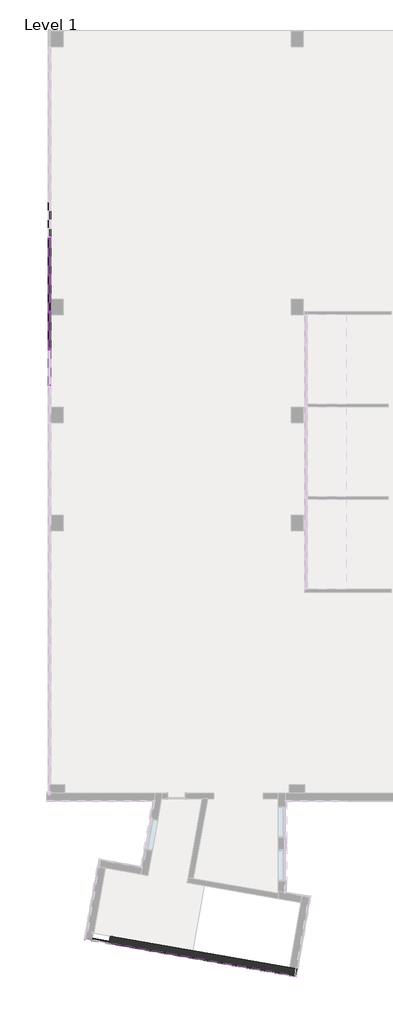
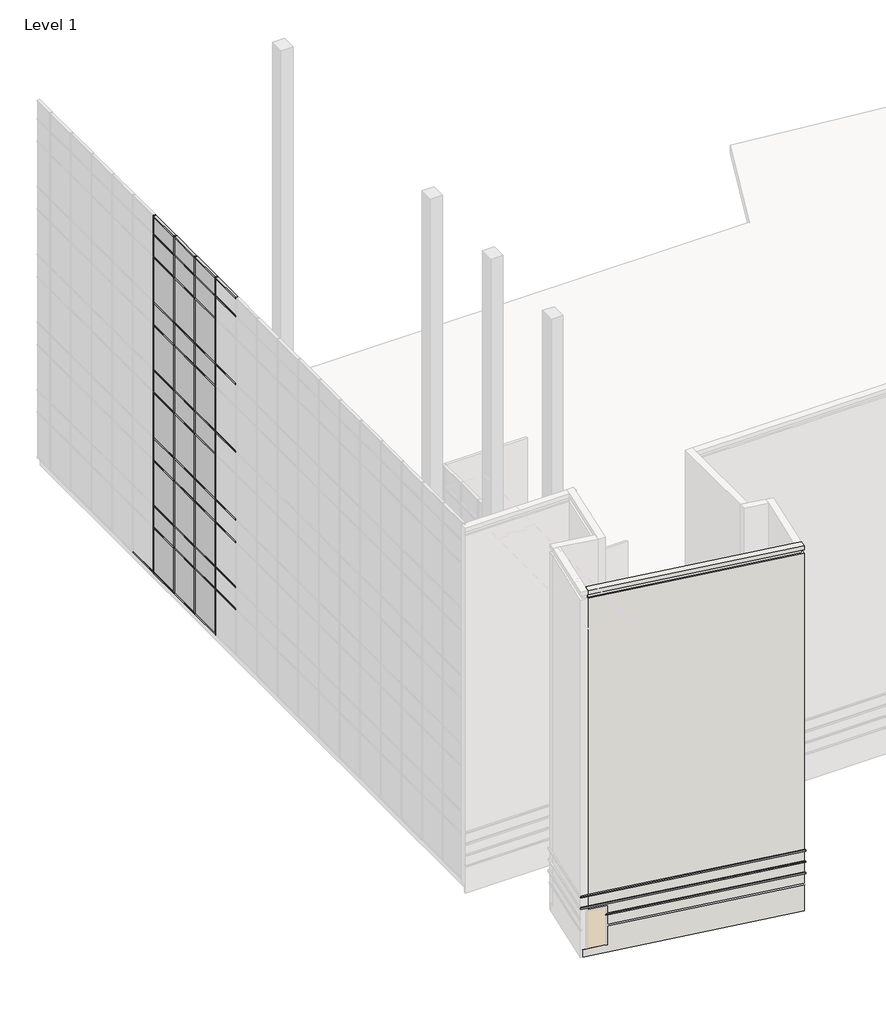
# One storey, part 4 of 23: 69 members, 33 plates, 3 proxies, 1 wall.
"""IFC4 building model written with IfcOpenShell, lengths in millimetres."""

from ifc_helpers import new_model, si_unit, frame, origin, place, context, project, spatial, polyline, outline, extrude, faceted_brep, transform, mapped, element, save
from components import member_f92b8aa2, member_810865a4, member_6d5c3e5e, member_9764dd38, system_panel_glazed_14c75400, system_panel_solid_5dfe6f83, system_panel_solid_e25e2004, system_panel_solid_b7551183

model = new_model("IFC4")

# Units and contexts
model_context = context("Model", 3, world=origin())
ifc_project = project(units=[si_unit("LENGTHUNIT", "METRE", prefix="MILLI")], contexts=[model_context])

# Site, building, storey
site = spatial("IfcSite", under=ifc_project)
building = spatial("IfcBuilding", under=site)
storey = spatial("IfcBuildingStorey", under=building, Name="Level 1", Elevation=0.0)

# Proxies
placement = place(None, origin())
element("IfcBuildingElementProxy", 1, Name="Reveals", at=placement, inside=storey, context=model_context, shape_type="SweptSolid", body=[
    extrude(outline(polyline([(-65796.5031372, -35188.4340603), (-65780.5144812, -35097.7578865), (-56600.3335692, -36716.4714691), (-56525.6460513, -36823.1362989), (-65796.5031372, -35188.4340603)])), frame((0.0, 0.0, 1625.6), z_axis=(0.0, 0.0, 1.0), x_axis=(1.0, 0.0, 0.0)), (0.0, 0.0, 1.0), 67.7333333),
])
element("IfcBuildingElementProxy", 2, Name="Reveals", at=placement, inside=storey, context=model_context, shape_type="SweptSolid", body=[
    extrude(outline(polyline([(-67022.1948666, -34972.3115384), (-66915.5300368, -34897.6240205), (-56600.3335692, -36716.4714691), (-56525.6460513, -36823.1362989), (-67022.1948666, -34972.3115384)])), frame((0.0, 0.0, 2235.2), z_axis=(0.0, 0.0, 1.0), x_axis=(1.0, 0.0, 0.0)), (0.0, 0.0, 1.0), 67.7333333),
])
element("IfcBuildingElementProxy", 3, Name="Reveals", at=placement, inside=storey, context=model_context, shape_type="SweptSolid", body=[
    extrude(outline(polyline([(-67022.1948666, -34972.3115384), (-66915.5300368, -34897.6240205), (-56600.3335692, -36716.4714691), (-56525.6460513, -36823.1362989), (-67022.1948666, -34972.3115384)])), frame((0.0, 0.0, 2844.8), z_axis=(0.0, 0.0, 1.0), x_axis=(1.0, 0.0, 0.0)), (0.0, 0.0, 1.0), 67.7333333),
])

# Members
member_shape = member_f92b8aa2(model_context)
element("IfcMember", 4, ObjectType="Rectangular Mullion : 2.5\" x 5\" rectangular", at=placement, inside=storey, context=model_context, shape_type="MappedRepresentation", body=[
    mapped(member_shape, transform((-68724.2599961, -5784.1853492, 18288.0), x_axis=(0.0, 1.0, 0.0), y_axis=(1.0, 0.0, 0.0), z_axis=(0.0, 0.0, -1.0))),
])
element("IfcMember", 5, ObjectType="Rectangular Mullion : 2.5\" x 5\" rectangular", at=placement, inside=storey, context=model_context, shape_type="MappedRepresentation", body=[
    mapped(member_shape, transform((-68724.2599961, -3955.3853492, 18288.0), x_axis=(0.0, 1.0, 0.0), y_axis=(1.0, 0.0, 0.0), z_axis=(0.0, 0.0, -1.0))),
])
element("IfcMember", 6, ObjectType="Rectangular Mullion : 2.5\" x 5\" rectangular", at=placement, inside=storey, context=model_context, shape_type="MappedRepresentation", body=[
    mapped(member_shape, transform((-68724.2599961, -2126.5853492, 18288.0), x_axis=(0.0, 1.0, 0.0), y_axis=(1.0, 0.0, 0.0), z_axis=(0.0, 0.0, -1.0))),
])
element("IfcMember", 7, ObjectType="Rectangular Mullion : 2.5\" x 5\" rectangular", at=placement, inside=storey, context=model_context, shape_type="MappedRepresentation", body=[
    mapped(member_shape, transform((-68724.2599961, -297.7853492, 18288.0), x_axis=(0.0, 1.0, 0.0), y_axis=(1.0, 0.0, 0.0), z_axis=(0.0, 0.0, -1.0))),
])
member_2_shape = member_810865a4(model_context)
element("IfcMember", 8, ObjectType="Rectangular Mullion : 2.5\" x 5\" rectangular", at=placement, inside=storey, context=model_context, shape_type="MappedRepresentation", body=[
    mapped(member_2_shape, transform((-68724.2599961, -5784.1853492, 3657.6), x_axis=(0.0, 1.0, 0.0), y_axis=(1.0, 0.0, 0.0), z_axis=(0.0, 0.0, -1.0))),
])
element("IfcMember", 9, ObjectType="Rectangular Mullion : 2.5\" x 5\" rectangular", at=placement, inside=storey, context=model_context, shape_type="MappedRepresentation", body=[
    mapped(member_2_shape, transform((-68724.2599961, -3955.3853492, 3657.6), x_axis=(0.0, 1.0, 0.0), y_axis=(1.0, 0.0, 0.0), z_axis=(0.0, 0.0, -1.0))),
])
element("IfcMember", 10, ObjectType="Rectangular Mullion : 2.5\" x 5\" rectangular", at=placement, inside=storey, context=model_context, shape_type="MappedRepresentation", body=[
    mapped(member_2_shape, transform((-68724.2599961, -2126.5853492, 3657.6), x_axis=(0.0, 1.0, 0.0), y_axis=(1.0, 0.0, 0.0), z_axis=(0.0, 0.0, -1.0))),
])
element("IfcMember", 11, ObjectType="Rectangular Mullion : 2.5\" x 5\" rectangular", at=placement, inside=storey, context=model_context, shape_type="MappedRepresentation", body=[
    mapped(member_2_shape, transform((-68724.2599961, -297.7853492, 3657.6), x_axis=(0.0, 1.0, 0.0), y_axis=(1.0, 0.0, 0.0), z_axis=(0.0, 0.0, -1.0))),
])
element("IfcMember", 12, ObjectType="Rectangular Mullion : 2.5\" x 5\" rectangular", at=placement, inside=storey, context=model_context, shape_type="MappedRepresentation", body=[
    mapped(member_2_shape, transform((-68724.2599961, -5784.1853492, 7315.2), x_axis=(0.0, 1.0, 0.0), y_axis=(1.0, 0.0, 0.0), z_axis=(0.0, 0.0, -1.0))),
])
element("IfcMember", 13, ObjectType="Rectangular Mullion : 2.5\" x 5\" rectangular", at=placement, inside=storey, context=model_context, shape_type="MappedRepresentation", body=[
    mapped(member_2_shape, transform((-68724.2599961, -3955.3853492, 7315.2), x_axis=(0.0, 1.0, 0.0), y_axis=(1.0, 0.0, 0.0), z_axis=(0.0, 0.0, -1.0))),
])
element("IfcMember", 14, ObjectType="Rectangular Mullion : 2.5\" x 5\" rectangular", at=placement, inside=storey, context=model_context, shape_type="MappedRepresentation", body=[
    mapped(member_2_shape, transform((-68724.2599961, -2126.5853492, 7315.2), x_axis=(0.0, 1.0, 0.0), y_axis=(1.0, 0.0, 0.0), z_axis=(0.0, 0.0, -1.0))),
])
element("IfcMember", 15, ObjectType="Rectangular Mullion : 2.5\" x 5\" rectangular", at=placement, inside=storey, context=model_context, shape_type="MappedRepresentation", body=[
    mapped(member_2_shape, transform((-68724.2599961, -297.7853492, 7315.2), x_axis=(0.0, 1.0, 0.0), y_axis=(1.0, 0.0, 0.0), z_axis=(0.0, 0.0, -1.0))),
])
element("IfcMember", 16, ObjectType="Rectangular Mullion : 2.5\" x 5\" rectangular", at=placement, inside=storey, context=model_context, shape_type="MappedRepresentation", body=[
    mapped(member_2_shape, transform((-68724.2599961, -5784.1853492, 10972.8), x_axis=(0.0, 1.0, 0.0), y_axis=(1.0, 0.0, 0.0), z_axis=(0.0, 0.0, -1.0))),
])
element("IfcMember", 17, ObjectType="Rectangular Mullion : 2.5\" x 5\" rectangular", at=placement, inside=storey, context=model_context, shape_type="MappedRepresentation", body=[
    mapped(member_2_shape, transform((-68724.2599961, -3955.3853492, 10972.8), x_axis=(0.0, 1.0, 0.0), y_axis=(1.0, 0.0, 0.0), z_axis=(0.0, 0.0, -1.0))),
])
element("IfcMember", 18, ObjectType="Rectangular Mullion : 2.5\" x 5\" rectangular", at=placement, inside=storey, context=model_context, shape_type="MappedRepresentation", body=[
    mapped(member_2_shape, transform((-68724.2599961, -2126.5853492, 10972.8), x_axis=(0.0, 1.0, 0.0), y_axis=(1.0, 0.0, 0.0), z_axis=(0.0, 0.0, -1.0))),
])
element("IfcMember", 19, ObjectType="Rectangular Mullion : 2.5\" x 5\" rectangular", at=placement, inside=storey, context=model_context, shape_type="MappedRepresentation", body=[
    mapped(member_2_shape, transform((-68724.2599961, -297.7853492, 10972.8), x_axis=(0.0, 1.0, 0.0), y_axis=(1.0, 0.0, 0.0), z_axis=(0.0, 0.0, -1.0))),
])
element("IfcMember", 20, ObjectType="Rectangular Mullion : 2.5\" x 5\" rectangular", at=placement, inside=storey, context=model_context, shape_type="MappedRepresentation", body=[
    mapped(member_2_shape, transform((-68724.2599961, -5784.1853492, 14630.4), x_axis=(0.0, 1.0, 0.0), y_axis=(1.0, 0.0, 0.0), z_axis=(0.0, 0.0, -1.0))),
])
element("IfcMember", 21, ObjectType="Rectangular Mullion : 2.5\" x 5\" rectangular", at=placement, inside=storey, context=model_context, shape_type="MappedRepresentation", body=[
    mapped(member_2_shape, transform((-68724.2599961, -3955.3853492, 14630.4), x_axis=(0.0, 1.0, 0.0), y_axis=(1.0, 0.0, 0.0), z_axis=(0.0, 0.0, -1.0))),
])
element("IfcMember", 22, ObjectType="Rectangular Mullion : 2.5\" x 5\" rectangular", at=placement, inside=storey, context=model_context, shape_type="MappedRepresentation", body=[
    mapped(member_2_shape, transform((-68724.2599961, -2126.5853492, 14630.4), x_axis=(0.0, 1.0, 0.0), y_axis=(1.0, 0.0, 0.0), z_axis=(0.0, 0.0, -1.0))),
])
element("IfcMember", 23, ObjectType="Rectangular Mullion : 2.5\" x 5\" rectangular", at=placement, inside=storey, context=model_context, shape_type="MappedRepresentation", body=[
    mapped(member_2_shape, transform((-68724.2599961, -297.7853492, 14630.4), x_axis=(0.0, 1.0, 0.0), y_axis=(1.0, 0.0, 0.0), z_axis=(0.0, 0.0, -1.0))),
])
member_3_shape = member_6d5c3e5e(model_context)
element("IfcMember", 24, ObjectType="Rectangular Mullion : 2.5\" x 5\" rectangular", at=placement, inside=storey, context=model_context, shape_type="MappedRepresentation", body=[
    mapped(member_3_shape, transform((-68724.2599961, -5815.9353492, 19304.0), x_axis=(0.0, 0.0, 1.0), y_axis=(1.0, 0.0, 0.0), z_axis=(0.0, 1.0, 0.0))),
])
element("IfcMember", 25, ObjectType="Rectangular Mullion : 2.5\" x 5\" rectangular", at=placement, inside=storey, context=model_context, shape_type="MappedRepresentation", body=[
    mapped(member_3_shape, transform((-68724.2599961, -3987.1353492, 19304.0), x_axis=(0.0, 0.0, 1.0), y_axis=(1.0, 0.0, 0.0), z_axis=(0.0, 1.0, 0.0))),
])
element("IfcMember", 26, ObjectType="Rectangular Mullion : 2.5\" x 5\" rectangular", at=placement, inside=storey, context=model_context, shape_type="MappedRepresentation", body=[
    mapped(member_3_shape, transform((-68724.2599961, -2158.3353492, 19304.0), x_axis=(0.0, 0.0, 1.0), y_axis=(1.0, 0.0, 0.0), z_axis=(0.0, 1.0, 0.0))),
])
element("IfcMember", 27, ObjectType="Rectangular Mullion : 2.5\" x 5\" rectangular", at=placement, inside=storey, context=model_context, shape_type="MappedRepresentation", body=[
    mapped(member_3_shape, transform((-68724.2599961, -329.5353492, 19304.0), x_axis=(0.0, 0.0, 1.0), y_axis=(1.0, 0.0, 0.0), z_axis=(0.0, 1.0, 0.0))),
])
member_4_shape = member_9764dd38(model_context)
element("IfcMember", 28, ObjectType="Rectangular Mullion : 2.5\" x 5\" rectangular", at=placement, inside=storey, context=model_context, shape_type="MappedRepresentation", body=[
    mapped(member_4_shape, transform((-68724.2599961, -329.5353492, 17068.8), x_axis=(0.0, 0.0, 1.0), y_axis=(1.0, 0.0, 0.0), z_axis=(0.0, 1.0, 0.0))),
])
element("IfcMember", 29, ObjectType="Rectangular Mullion : 2.5\" x 5\" rectangular", at=placement, inside=storey, context=model_context, shape_type="MappedRepresentation", body=[
    mapped(member_4_shape, transform((-68724.2599961, -2158.3353492, 17068.8), x_axis=(0.0, 0.0, 1.0), y_axis=(1.0, 0.0, 0.0), z_axis=(0.0, 1.0, 0.0))),
])
element("IfcMember", 30, ObjectType="Rectangular Mullion : 2.5\" x 5\" rectangular", at=placement, inside=storey, context=model_context, shape_type="MappedRepresentation", body=[
    mapped(member_4_shape, transform((-68724.2599961, -3987.1353492, 17068.8), x_axis=(0.0, 0.0, 1.0), y_axis=(1.0, 0.0, 0.0), z_axis=(0.0, 1.0, 0.0))),
])
element("IfcMember", 31, ObjectType="Rectangular Mullion : 2.5\" x 5\" rectangular", at=placement, inside=storey, context=model_context, shape_type="MappedRepresentation", body=[
    mapped(member_4_shape, transform((-68724.2599961, -329.5353492, 13411.2), x_axis=(0.0, 0.0, 1.0), y_axis=(1.0, 0.0, 0.0), z_axis=(0.0, 1.0, 0.0))),
])
element("IfcMember", 32, ObjectType="Rectangular Mullion : 2.5\" x 5\" rectangular", at=placement, inside=storey, context=model_context, shape_type="MappedRepresentation", body=[
    mapped(member_4_shape, transform((-68724.2599961, -2158.3353492, 13411.2), x_axis=(0.0, 0.0, 1.0), y_axis=(1.0, 0.0, 0.0), z_axis=(0.0, 1.0, 0.0))),
])
element("IfcMember", 33, ObjectType="Rectangular Mullion : 2.5\" x 5\" rectangular", at=placement, inside=storey, context=model_context, shape_type="MappedRepresentation", body=[
    mapped(member_4_shape, transform((-68724.2599961, -3987.1353492, 13411.2), x_axis=(0.0, 0.0, 1.0), y_axis=(1.0, 0.0, 0.0), z_axis=(0.0, 1.0, 0.0))),
])
element("IfcMember", 34, ObjectType="Rectangular Mullion : 2.5\" x 5\" rectangular", at=placement, inside=storey, context=model_context, shape_type="MappedRepresentation", body=[
    mapped(member_4_shape, transform((-68724.2599961, -329.5353492, 9753.6), x_axis=(0.0, 0.0, 1.0), y_axis=(1.0, 0.0, 0.0), z_axis=(0.0, 1.0, 0.0))),
])
element("IfcMember", 35, ObjectType="Rectangular Mullion : 2.5\" x 5\" rectangular", at=placement, inside=storey, context=model_context, shape_type="MappedRepresentation", body=[
    mapped(member_4_shape, transform((-68724.2599961, -2158.3353492, 9753.6), x_axis=(0.0, 0.0, 1.0), y_axis=(1.0, 0.0, 0.0), z_axis=(0.0, 1.0, 0.0))),
])
element("IfcMember", 36, ObjectType="Rectangular Mullion : 2.5\" x 5\" rectangular", at=placement, inside=storey, context=model_context, shape_type="MappedRepresentation", body=[
    mapped(member_4_shape, transform((-68724.2599961, -3987.1353492, 9753.6), x_axis=(0.0, 0.0, 1.0), y_axis=(1.0, 0.0, 0.0), z_axis=(0.0, 1.0, 0.0))),
])
element("IfcMember", 37, ObjectType="Rectangular Mullion : 2.5\" x 5\" rectangular", at=placement, inside=storey, context=model_context, shape_type="MappedRepresentation", body=[
    mapped(member_4_shape, transform((-68724.2599961, -329.5353492, 6096.0), x_axis=(0.0, 0.0, 1.0), y_axis=(1.0, 0.0, 0.0), z_axis=(0.0, 1.0, 0.0))),
])
element("IfcMember", 38, ObjectType="Rectangular Mullion : 2.5\" x 5\" rectangular", at=placement, inside=storey, context=model_context, shape_type="MappedRepresentation", body=[
    mapped(member_4_shape, transform((-68724.2599961, -2158.3353492, 6096.0), x_axis=(0.0, 0.0, 1.0), y_axis=(1.0, 0.0, 0.0), z_axis=(0.0, 1.0, 0.0))),
])
element("IfcMember", 39, ObjectType="Rectangular Mullion : 2.5\" x 5\" rectangular", at=placement, inside=storey, context=model_context, shape_type="MappedRepresentation", body=[
    mapped(member_4_shape, transform((-68724.2599961, -3987.1353492, 6096.0), x_axis=(0.0, 0.0, 1.0), y_axis=(1.0, 0.0, 0.0), z_axis=(0.0, 1.0, 0.0))),
])
element("IfcMember", 40, ObjectType="Rectangular Mullion : 2.5\" x 5\" rectangular", at=placement, inside=storey, context=model_context, shape_type="MappedRepresentation", body=[
    mapped(member_4_shape, transform((-68724.2599961, -5815.9353492, 6096.0), x_axis=(0.0, 0.0, 1.0), y_axis=(1.0, 0.0, 0.0), z_axis=(0.0, 1.0, 0.0))),
])
element("IfcMember", 41, ObjectType="Rectangular Mullion : 2.5\" x 5\" rectangular", at=placement, inside=storey, context=model_context, shape_type="MappedRepresentation", body=[
    mapped(member_4_shape, transform((-68724.2599961, -329.5353492, 2470.15), x_axis=(0.0, 0.0, 1.0), y_axis=(1.0, 0.0, 0.0), z_axis=(0.0, 1.0, 0.0))),
])
element("IfcMember", 42, ObjectType="Rectangular Mullion : 2.5\" x 5\" rectangular", at=placement, inside=storey, context=model_context, shape_type="MappedRepresentation", body=[
    mapped(member_4_shape, transform((-68724.2599961, -2158.3353492, 2470.15), x_axis=(0.0, 0.0, 1.0), y_axis=(1.0, 0.0, 0.0), z_axis=(0.0, 1.0, 0.0))),
])
element("IfcMember", 43, ObjectType="Rectangular Mullion : 2.5\" x 5\" rectangular", at=placement, inside=storey, context=model_context, shape_type="MappedRepresentation", body=[
    mapped(member_4_shape, transform((-68724.2599961, -3987.1353492, 2470.15), x_axis=(0.0, 0.0, 1.0), y_axis=(1.0, 0.0, 0.0), z_axis=(0.0, 1.0, 0.0))),
])
element("IfcMember", 44, ObjectType="Rectangular Mullion : 2.5\" x 5\" rectangular", at=placement, inside=storey, context=model_context, shape_type="MappedRepresentation", body=[
    mapped(member_4_shape, transform((-68724.2599961, -5815.9353492, 2470.15), x_axis=(0.0, 0.0, 1.0), y_axis=(1.0, 0.0, 0.0), z_axis=(0.0, 1.0, 0.0))),
])
element("IfcMember", 45, ObjectType="Rectangular Mullion : 2.5\" x 5\" rectangular", at=placement, inside=storey, context=model_context, shape_type="MappedRepresentation", body=[
    mapped(member_2_shape, transform((-68724.2599961, -5784.1853492, 0.0), x_axis=(0.0, 1.0, 0.0), y_axis=(1.0, 0.0, 0.0), z_axis=(0.0, 0.0, -1.0))),
])
element("IfcMember", 46, ObjectType="Rectangular Mullion : 2.5\" x 5\" rectangular", at=placement, inside=storey, context=model_context, shape_type="MappedRepresentation", body=[
    mapped(member_2_shape, transform((-68724.2599961, -3955.3853492, 0.0), x_axis=(0.0, 1.0, 0.0), y_axis=(1.0, 0.0, 0.0), z_axis=(0.0, 0.0, -1.0))),
])
element("IfcMember", 47, ObjectType="Rectangular Mullion : 2.5\" x 5\" rectangular", at=placement, inside=storey, context=model_context, shape_type="MappedRepresentation", body=[
    mapped(member_2_shape, transform((-68724.2599961, -2126.5853492, 0.0), x_axis=(0.0, 1.0, 0.0), y_axis=(1.0, 0.0, 0.0), z_axis=(0.0, 0.0, -1.0))),
])
element("IfcMember", 48, ObjectType="Rectangular Mullion : 2.5\" x 5\" rectangular", at=placement, inside=storey, context=model_context, shape_type="MappedRepresentation", body=[
    mapped(member_2_shape, transform((-68724.2599961, -297.7853492, 0.0), x_axis=(0.0, 1.0, 0.0), y_axis=(1.0, 0.0, 0.0), z_axis=(0.0, 0.0, -1.0))),
])
element("IfcMember", 49, ObjectType="Rectangular Mullion : 2.5\" x 5\" rectangular", at=placement, inside=storey, context=model_context, shape_type="MappedRepresentation", body=[
    mapped(member_3_shape, transform((-68724.2599961, -5752.4353492, 0.0), x_axis=(0.0, 0.0, -1.0), y_axis=(1.0, 0.0, 0.0), z_axis=(0.0, -1.0, 0.0))),
])
element("IfcMember", 50, ObjectType="Rectangular Mullion : 2.5\" x 5\" rectangular", at=placement, inside=storey, context=model_context, shape_type="MappedRepresentation", body=[
    mapped(member_3_shape, transform((-68724.2599961, -3923.6353492, 0.0), x_axis=(0.0, 0.0, -1.0), y_axis=(1.0, 0.0, 0.0), z_axis=(0.0, -1.0, 0.0))),
])
element("IfcMember", 51, ObjectType="Rectangular Mullion : 2.5\" x 5\" rectangular", at=placement, inside=storey, context=model_context, shape_type="MappedRepresentation", body=[
    mapped(member_3_shape, transform((-68724.2599961, -2094.8353492, 0.0), x_axis=(0.0, 0.0, -1.0), y_axis=(1.0, 0.0, 0.0), z_axis=(0.0, -1.0, 0.0))),
])
element("IfcMember", 52, ObjectType="Rectangular Mullion : 2.5\" x 5\" rectangular", at=placement, inside=storey, context=model_context, shape_type="MappedRepresentation", body=[
    mapped(member_3_shape, transform((-68724.2599961, -266.0353492, 0.0), x_axis=(0.0, 0.0, -1.0), y_axis=(1.0, 0.0, 0.0), z_axis=(0.0, -1.0, 0.0))),
])
element("IfcMember", 53, ObjectType="Rectangular Mullion : 2.5\" x 5\" rectangular", at=placement, inside=storey, context=model_context, shape_type="MappedRepresentation", body=[
    mapped(member_4_shape, transform((-68724.2599961, -5815.9353492, 3657.6), x_axis=(0.0, 0.0, 1.0), y_axis=(1.0, 0.0, 0.0), z_axis=(0.0, 1.0, 0.0))),
])
element("IfcMember", 54, ObjectType="Rectangular Mullion : 2.5\" x 5\" rectangular", at=placement, inside=storey, context=model_context, shape_type="MappedRepresentation", body=[
    mapped(member_4_shape, transform((-68724.2599961, -3987.1353492, 3657.6), x_axis=(0.0, 0.0, 1.0), y_axis=(1.0, 0.0, 0.0), z_axis=(0.0, 1.0, 0.0))),
])
element("IfcMember", 55, ObjectType="Rectangular Mullion : 2.5\" x 5\" rectangular", at=placement, inside=storey, context=model_context, shape_type="MappedRepresentation", body=[
    mapped(member_4_shape, transform((-68724.2599961, -2158.3353492, 3657.6), x_axis=(0.0, 0.0, 1.0), y_axis=(1.0, 0.0, 0.0), z_axis=(0.0, 1.0, 0.0))),
])
element("IfcMember", 56, ObjectType="Rectangular Mullion : 2.5\" x 5\" rectangular", at=placement, inside=storey, context=model_context, shape_type="MappedRepresentation", body=[
    mapped(member_4_shape, transform((-68724.2599961, -329.5353492, 3657.6), x_axis=(0.0, 0.0, 1.0), y_axis=(1.0, 0.0, 0.0), z_axis=(0.0, 1.0, 0.0))),
])
element("IfcMember", 57, ObjectType="Rectangular Mullion : 2.5\" x 5\" rectangular", at=placement, inside=storey, context=model_context, shape_type="MappedRepresentation", body=[
    mapped(member_4_shape, transform((-68724.2599961, -5815.9353492, 7315.2), x_axis=(0.0, 0.0, 1.0), y_axis=(1.0, 0.0, 0.0), z_axis=(0.0, 1.0, 0.0))),
])
element("IfcMember", 58, ObjectType="Rectangular Mullion : 2.5\" x 5\" rectangular", at=placement, inside=storey, context=model_context, shape_type="MappedRepresentation", body=[
    mapped(member_4_shape, transform((-68724.2599961, -3987.1353492, 7315.2), x_axis=(0.0, 0.0, 1.0), y_axis=(1.0, 0.0, 0.0), z_axis=(0.0, 1.0, 0.0))),
])
element("IfcMember", 59, ObjectType="Rectangular Mullion : 2.5\" x 5\" rectangular", at=placement, inside=storey, context=model_context, shape_type="MappedRepresentation", body=[
    mapped(member_4_shape, transform((-68724.2599961, -2158.3353492, 7315.2), x_axis=(0.0, 0.0, 1.0), y_axis=(1.0, 0.0, 0.0), z_axis=(0.0, 1.0, 0.0))),
])
element("IfcMember", 60, ObjectType="Rectangular Mullion : 2.5\" x 5\" rectangular", at=placement, inside=storey, context=model_context, shape_type="MappedRepresentation", body=[
    mapped(member_4_shape, transform((-68724.2599961, -329.5353492, 7315.2), x_axis=(0.0, 0.0, 1.0), y_axis=(1.0, 0.0, 0.0), z_axis=(0.0, 1.0, 0.0))),
])
element("IfcMember", 61, ObjectType="Rectangular Mullion : 2.5\" x 5\" rectangular", at=placement, inside=storey, context=model_context, shape_type="MappedRepresentation", body=[
    mapped(member_4_shape, transform((-68724.2599961, -5815.9353492, 10972.8), x_axis=(0.0, 0.0, 1.0), y_axis=(1.0, 0.0, 0.0), z_axis=(0.0, 1.0, 0.0))),
])
element("IfcMember", 62, ObjectType="Rectangular Mullion : 2.5\" x 5\" rectangular", at=placement, inside=storey, context=model_context, shape_type="MappedRepresentation", body=[
    mapped(member_4_shape, transform((-68724.2599961, -3987.1353492, 10972.8), x_axis=(0.0, 0.0, 1.0), y_axis=(1.0, 0.0, 0.0), z_axis=(0.0, 1.0, 0.0))),
])
element("IfcMember", 63, ObjectType="Rectangular Mullion : 2.5\" x 5\" rectangular", at=placement, inside=storey, context=model_context, shape_type="MappedRepresentation", body=[
    mapped(member_4_shape, transform((-68724.2599961, -2158.3353492, 10972.8), x_axis=(0.0, 0.0, 1.0), y_axis=(1.0, 0.0, 0.0), z_axis=(0.0, 1.0, 0.0))),
])
element("IfcMember", 64, ObjectType="Rectangular Mullion : 2.5\" x 5\" rectangular", at=placement, inside=storey, context=model_context, shape_type="MappedRepresentation", body=[
    mapped(member_4_shape, transform((-68724.2599961, -329.5353492, 10972.8), x_axis=(0.0, 0.0, 1.0), y_axis=(1.0, 0.0, 0.0), z_axis=(0.0, 1.0, 0.0))),
])
element("IfcMember", 65, ObjectType="Rectangular Mullion : 2.5\" x 5\" rectangular", at=placement, inside=storey, context=model_context, shape_type="MappedRepresentation", body=[
    mapped(member_4_shape, transform((-68724.2599961, -5815.9353492, 14630.4), x_axis=(0.0, 0.0, 1.0), y_axis=(1.0, 0.0, 0.0), z_axis=(0.0, 1.0, 0.0))),
])
element("IfcMember", 66, ObjectType="Rectangular Mullion : 2.5\" x 5\" rectangular", at=placement, inside=storey, context=model_context, shape_type="MappedRepresentation", body=[
    mapped(member_4_shape, transform((-68724.2599961, -3987.1353492, 14630.4), x_axis=(0.0, 0.0, 1.0), y_axis=(1.0, 0.0, 0.0), z_axis=(0.0, 1.0, 0.0))),
])
element("IfcMember", 67, ObjectType="Rectangular Mullion : 2.5\" x 5\" rectangular", at=placement, inside=storey, context=model_context, shape_type="MappedRepresentation", body=[
    mapped(member_4_shape, transform((-68724.2599961, -2158.3353492, 14630.4), x_axis=(0.0, 0.0, 1.0), y_axis=(1.0, 0.0, 0.0), z_axis=(0.0, 1.0, 0.0))),
])
element("IfcMember", 68, ObjectType="Rectangular Mullion : 2.5\" x 5\" rectangular", at=placement, inside=storey, context=model_context, shape_type="MappedRepresentation", body=[
    mapped(member_4_shape, transform((-68724.2599961, -329.5353492, 14630.4), x_axis=(0.0, 0.0, 1.0), y_axis=(1.0, 0.0, 0.0), z_axis=(0.0, 1.0, 0.0))),
])
element("IfcMember", 69, ObjectType="Rectangular Mullion : 2.5\" x 5\" rectangular", at=placement, inside=storey, context=model_context, shape_type="MappedRepresentation", body=[
    mapped(member_4_shape, transform((-68724.2599961, -5815.9353492, 18288.0), x_axis=(0.0, 0.0, 1.0), y_axis=(1.0, 0.0, 0.0), z_axis=(0.0, 1.0, 0.0))),
])
element("IfcMember", 70, ObjectType="Rectangular Mullion : 2.5\" x 5\" rectangular", at=placement, inside=storey, context=model_context, shape_type="MappedRepresentation", body=[
    mapped(member_4_shape, transform((-68724.2599961, -3987.1353492, 18288.0), x_axis=(0.0, 0.0, 1.0), y_axis=(1.0, 0.0, 0.0), z_axis=(0.0, 1.0, 0.0))),
])
element("IfcMember", 71, ObjectType="Rectangular Mullion : 2.5\" x 5\" rectangular", at=placement, inside=storey, context=model_context, shape_type="MappedRepresentation", body=[
    mapped(member_4_shape, transform((-68724.2599961, -2158.3353492, 18288.0), x_axis=(0.0, 0.0, 1.0), y_axis=(1.0, 0.0, 0.0), z_axis=(0.0, 1.0, 0.0))),
])
element("IfcMember", 72, ObjectType="Rectangular Mullion : 2.5\" x 5\" rectangular", at=placement, inside=storey, context=model_context, shape_type="MappedRepresentation", body=[
    mapped(member_4_shape, transform((-68724.2599961, -329.5353492, 18288.0), x_axis=(0.0, 0.0, 1.0), y_axis=(1.0, 0.0, 0.0), z_axis=(0.0, 1.0, 0.0))),
])

# Plates
system_panel_glazed_shape = system_panel_glazed_14c75400(model_context)
element("IfcPlate", 73, ObjectType="System Panel : Glazed", at=placement, inside=storey, context=model_context, shape_type="MappedRepresentation", body=[
    mapped(system_panel_glazed_shape, transform((-68724.2599961, -1212.1853492, 14662.15), x_axis=(0.0, 1.0, 0.0), y_axis=(-1.0, 0.0, 0.0), z_axis=(0.0, 0.0, 1.0))),
])
element("IfcPlate", 74, ObjectType="System Panel : Glazed", at=placement, inside=storey, context=model_context, shape_type="MappedRepresentation", body=[
    mapped(system_panel_glazed_shape, transform((-68724.2599961, -3040.9853492, 14662.15), x_axis=(0.0, 1.0, 0.0), y_axis=(-1.0, 0.0, 0.0), z_axis=(0.0, 0.0, 1.0))),
])
element("IfcPlate", 75, ObjectType="System Panel : Glazed", at=placement, inside=storey, context=model_context, shape_type="MappedRepresentation", body=[
    mapped(system_panel_glazed_shape, transform((-68724.2599961, -4869.7853492, 14662.15), x_axis=(0.0, 1.0, 0.0), y_axis=(-1.0, 0.0, 0.0), z_axis=(0.0, 0.0, 1.0))),
])
element("IfcPlate", 76, ObjectType="System Panel : Glazed", at=placement, inside=storey, context=model_context, shape_type="MappedRepresentation", body=[
    mapped(system_panel_glazed_shape, transform((-68724.2599961, -1212.1853492, 11004.55), x_axis=(0.0, 1.0, 0.0), y_axis=(-1.0, 0.0, 0.0), z_axis=(0.0, 0.0, 1.0))),
])
element("IfcPlate", 77, ObjectType="System Panel : Glazed", at=placement, inside=storey, context=model_context, shape_type="MappedRepresentation", body=[
    mapped(system_panel_glazed_shape, transform((-68724.2599961, -3040.9853492, 11004.55), x_axis=(0.0, 1.0, 0.0), y_axis=(-1.0, 0.0, 0.0), z_axis=(0.0, 0.0, 1.0))),
])
element("IfcPlate", 78, ObjectType="System Panel : Glazed", at=placement, inside=storey, context=model_context, shape_type="MappedRepresentation", body=[
    mapped(system_panel_glazed_shape, transform((-68724.2599961, -4869.7853492, 11004.55), x_axis=(0.0, 1.0, 0.0), y_axis=(-1.0, 0.0, 0.0), z_axis=(0.0, 0.0, 1.0))),
])
element("IfcPlate", 79, ObjectType="System Panel : Glazed", at=placement, inside=storey, context=model_context, shape_type="MappedRepresentation", body=[
    mapped(system_panel_glazed_shape, transform((-68724.2599961, -1212.1853492, 7346.95), x_axis=(0.0, 1.0, 0.0), y_axis=(-1.0, 0.0, 0.0), z_axis=(0.0, 0.0, 1.0))),
])
element("IfcPlate", 80, ObjectType="System Panel : Glazed", at=placement, inside=storey, context=model_context, shape_type="MappedRepresentation", body=[
    mapped(system_panel_glazed_shape, transform((-68724.2599961, -3040.9853492, 7346.95), x_axis=(0.0, 1.0, 0.0), y_axis=(-1.0, 0.0, 0.0), z_axis=(0.0, 0.0, 1.0))),
])
element("IfcPlate", 81, ObjectType="System Panel : Glazed", at=placement, inside=storey, context=model_context, shape_type="MappedRepresentation", body=[
    mapped(system_panel_glazed_shape, transform((-68724.2599961, -4869.7853492, 7346.95), x_axis=(0.0, 1.0, 0.0), y_axis=(-1.0, 0.0, 0.0), z_axis=(0.0, 0.0, 1.0))),
])
element("IfcPlate", 82, ObjectType="System Panel : Glazed", at=placement, inside=storey, context=model_context, shape_type="MappedRepresentation", body=[
    mapped(system_panel_glazed_shape, transform((-68724.2599961, -1212.1853492, 3689.35), x_axis=(0.0, 1.0, 0.0), y_axis=(-1.0, 0.0, 0.0), z_axis=(0.0, 0.0, 1.0))),
])
element("IfcPlate", 83, ObjectType="System Panel : Glazed", at=placement, inside=storey, context=model_context, shape_type="MappedRepresentation", body=[
    mapped(system_panel_glazed_shape, transform((-68724.2599961, -3040.9853492, 3689.35), x_axis=(0.0, 1.0, 0.0), y_axis=(-1.0, 0.0, 0.0), z_axis=(0.0, 0.0, 1.0))),
])
element("IfcPlate", 84, ObjectType="System Panel : Glazed", at=placement, inside=storey, context=model_context, shape_type="MappedRepresentation", body=[
    mapped(system_panel_glazed_shape, transform((-68724.2599961, -4869.7853492, 3689.35), x_axis=(0.0, 1.0, 0.0), y_axis=(-1.0, 0.0, 0.0), z_axis=(0.0, 0.0, 1.0))),
])
element("IfcPlate", 85, ObjectType="System Panel : Glazed", at=placement, inside=storey, context=model_context, shape_type="MappedRepresentation", body=[
    mapped(system_panel_glazed_shape, transform((-68724.2599961, -1212.1853492, 63.5), x_axis=(0.0, 1.0, 0.0), y_axis=(-1.0, 0.0, 0.0), z_axis=(0.0, 0.0, 1.0))),
])
element("IfcPlate", 86, ObjectType="System Panel : Glazed", at=placement, inside=storey, context=model_context, shape_type="MappedRepresentation", body=[
    mapped(system_panel_glazed_shape, transform((-68724.2599961, -3040.9853492, 63.5), x_axis=(0.0, 1.0, 0.0), y_axis=(-1.0, 0.0, 0.0), z_axis=(0.0, 0.0, 1.0))),
])
element("IfcPlate", 87, ObjectType="System Panel : Glazed", at=placement, inside=storey, context=model_context, shape_type="MappedRepresentation", body=[
    mapped(system_panel_glazed_shape, transform((-68724.2599961, -4869.7853492, 63.5), x_axis=(0.0, 1.0, 0.0), y_axis=(-1.0, 0.0, 0.0), z_axis=(0.0, 0.0, 1.0))),
])
system_panel_solid_shape = system_panel_solid_5dfe6f83(model_context)
element("IfcPlate", 88, ObjectType="System Panel : Solid", at=placement, inside=storey, context=model_context, shape_type="MappedRepresentation", body=[
    mapped(system_panel_solid_shape, transform((-68724.2599961, -4869.7853492, 18319.75), x_axis=(0.0, 1.0, 0.0), y_axis=(-1.0, 0.0, 0.0), z_axis=(0.0, 0.0, 1.0))),
])
element("IfcPlate", 89, ObjectType="System Panel : Solid", at=placement, inside=storey, context=model_context, shape_type="MappedRepresentation", body=[
    mapped(system_panel_solid_shape, transform((-68724.2599961, -3040.9853492, 18319.75), x_axis=(0.0, 1.0, 0.0), y_axis=(-1.0, 0.0, 0.0), z_axis=(0.0, 0.0, 1.0))),
])
element("IfcPlate", 90, ObjectType="System Panel : Solid", at=placement, inside=storey, context=model_context, shape_type="MappedRepresentation", body=[
    mapped(system_panel_solid_shape, transform((-68724.2599961, -1212.1853492, 18319.75), x_axis=(0.0, 1.0, 0.0), y_axis=(-1.0, 0.0, 0.0), z_axis=(0.0, 0.0, 1.0))),
])
system_panel_solid_2_shape = system_panel_solid_e25e2004(model_context)
element("IfcPlate", 91, ObjectType="System Panel : Solid", at=placement, inside=storey, context=model_context, shape_type="MappedRepresentation", body=[
    mapped(system_panel_solid_2_shape, transform((-68724.2599961, -1212.1853492, 17100.55), x_axis=(0.0, 1.0, 0.0), y_axis=(-1.0, 0.0, 0.0), z_axis=(0.0, 0.0, 1.0))),
])
element("IfcPlate", 92, ObjectType="System Panel : Solid", at=placement, inside=storey, context=model_context, shape_type="MappedRepresentation", body=[
    mapped(system_panel_solid_2_shape, transform((-68724.2599961, -3040.9853492, 17100.55), x_axis=(0.0, 1.0, 0.0), y_axis=(-1.0, 0.0, 0.0), z_axis=(0.0, 0.0, 1.0))),
])
element("IfcPlate", 93, ObjectType="System Panel : Solid", at=placement, inside=storey, context=model_context, shape_type="MappedRepresentation", body=[
    mapped(system_panel_solid_2_shape, transform((-68724.2599961, -4869.7853492, 17100.55), x_axis=(0.0, 1.0, 0.0), y_axis=(-1.0, 0.0, 0.0), z_axis=(0.0, 0.0, 1.0))),
])
element("IfcPlate", 94, ObjectType="System Panel : Solid", at=placement, inside=storey, context=model_context, shape_type="MappedRepresentation", body=[
    mapped(system_panel_solid_2_shape, transform((-68724.2599961, -1212.1853492, 13442.95), x_axis=(0.0, 1.0, 0.0), y_axis=(-1.0, 0.0, 0.0), z_axis=(0.0, 0.0, 1.0))),
])
element("IfcPlate", 95, ObjectType="System Panel : Solid", at=placement, inside=storey, context=model_context, shape_type="MappedRepresentation", body=[
    mapped(system_panel_solid_2_shape, transform((-68724.2599961, -3040.9853492, 13442.95), x_axis=(0.0, 1.0, 0.0), y_axis=(-1.0, 0.0, 0.0), z_axis=(0.0, 0.0, 1.0))),
])
element("IfcPlate", 96, ObjectType="System Panel : Solid", at=placement, inside=storey, context=model_context, shape_type="MappedRepresentation", body=[
    mapped(system_panel_solid_2_shape, transform((-68724.2599961, -4869.7853492, 13442.95), x_axis=(0.0, 1.0, 0.0), y_axis=(-1.0, 0.0, 0.0), z_axis=(0.0, 0.0, 1.0))),
])
element("IfcPlate", 97, ObjectType="System Panel : Solid", at=placement, inside=storey, context=model_context, shape_type="MappedRepresentation", body=[
    mapped(system_panel_solid_2_shape, transform((-68724.2599961, -1212.1853492, 9785.35), x_axis=(0.0, 1.0, 0.0), y_axis=(-1.0, 0.0, 0.0), z_axis=(0.0, 0.0, 1.0))),
])
element("IfcPlate", 98, ObjectType="System Panel : Solid", at=placement, inside=storey, context=model_context, shape_type="MappedRepresentation", body=[
    mapped(system_panel_solid_2_shape, transform((-68724.2599961, -3040.9853492, 9785.35), x_axis=(0.0, 1.0, 0.0), y_axis=(-1.0, 0.0, 0.0), z_axis=(0.0, 0.0, 1.0))),
])
element("IfcPlate", 99, ObjectType="System Panel : Solid", at=placement, inside=storey, context=model_context, shape_type="MappedRepresentation", body=[
    mapped(system_panel_solid_2_shape, transform((-68724.2599961, -4869.7853492, 9785.35), x_axis=(0.0, 1.0, 0.0), y_axis=(-1.0, 0.0, 0.0), z_axis=(0.0, 0.0, 1.0))),
])
element("IfcPlate", 100, ObjectType="System Panel : Solid", at=placement, inside=storey, context=model_context, shape_type="MappedRepresentation", body=[
    mapped(system_panel_solid_2_shape, transform((-68724.2599961, -1212.1853492, 6127.75), x_axis=(0.0, 1.0, 0.0), y_axis=(-1.0, 0.0, 0.0), z_axis=(0.0, 0.0, 1.0))),
])
element("IfcPlate", 101, ObjectType="System Panel : Solid", at=placement, inside=storey, context=model_context, shape_type="MappedRepresentation", body=[
    mapped(system_panel_solid_2_shape, transform((-68724.2599961, -3040.9853492, 6127.75), x_axis=(0.0, 1.0, 0.0), y_axis=(-1.0, 0.0, 0.0), z_axis=(0.0, 0.0, 1.0))),
])
element("IfcPlate", 102, ObjectType="System Panel : Solid", at=placement, inside=storey, context=model_context, shape_type="MappedRepresentation", body=[
    mapped(system_panel_solid_2_shape, transform((-68724.2599961, -4869.7853492, 6127.75), x_axis=(0.0, 1.0, 0.0), y_axis=(-1.0, 0.0, 0.0), z_axis=(0.0, 0.0, 1.0))),
])
system_panel_solid_3_shape = system_panel_solid_b7551183(model_context)
element("IfcPlate", 103, ObjectType="System Panel : Solid", at=placement, inside=storey, context=model_context, shape_type="MappedRepresentation", body=[
    mapped(system_panel_solid_3_shape, transform((-68724.2599961, -1212.1853492, 2501.9), x_axis=(0.0, 1.0, 0.0), y_axis=(-1.0, 0.0, 0.0), z_axis=(0.0, 0.0, 1.0))),
])
element("IfcPlate", 104, ObjectType="System Panel : Solid", at=placement, inside=storey, context=model_context, shape_type="MappedRepresentation", body=[
    mapped(system_panel_solid_3_shape, transform((-68724.2599961, -3040.9853492, 2501.9), x_axis=(0.0, 1.0, 0.0), y_axis=(-1.0, 0.0, 0.0), z_axis=(0.0, 0.0, 1.0))),
])
element("IfcPlate", 105, ObjectType="System Panel : Solid", at=placement, inside=storey, context=model_context, shape_type="MappedRepresentation", body=[
    mapped(system_panel_solid_3_shape, transform((-68724.2599961, -4869.7853492, 2501.9), x_axis=(0.0, 1.0, 0.0), y_axis=(-1.0, 0.0, 0.0), z_axis=(0.0, 0.0, 1.0))),
])

# Wall
element("IfcWall", 106, ObjectType="Exterior - Brick and CMU on MTL. Stud", at=placement, inside=storey, context=model_context, shape_type="Brep", body=[
    faceted_brep([(-56579.730116, -36745.8962497, 19304.0), (-66597.8839451, -34979.4254327, 19304.0), (-66597.8839451, -34979.4254327, 19100.8), (-56579.730116, -36745.8962497, 19100.8), (-66597.8839451, -34979.4254327, 2032.0), (-65784.925145, -35122.7720034, 2032.0), (-65784.925145, -35122.7720034, 1693.3333333), (-56579.730116, -36745.8962497, 1693.3333333), (-56579.730116, -36745.8962497, 2235.2), (-66597.8839451, -34979.4254327, 2235.2), (-56579.730116, -36745.8962497, 1625.6), (-65784.925145, -35122.7720034, 1625.6), (-65784.925145, -35122.7720034, 1085.85), (-56579.730116, -36745.8962497, 1085.85), (-56579.730116, -36745.8962497, 1016.0), (-65784.925145, -35122.7720034, 1016.0), (-65784.925145, -35122.7720034, 0.0), (-66635.4051205, -34972.8094372, 0.0), (-66854.2786436, -34934.2161297, 0.0), (-66854.2786436, -34934.2161297, -406.4), (-56579.730116, -36745.8962497, -406.4), (-66597.8839451, -34979.4254327, 2302.9333333), (-56579.730116, -36745.8962497, 2302.9333333), (-56579.730116, -36745.8962497, 2844.8), (-66597.8839451, -34979.4254327, 2844.8), (-66597.8839451, -34979.4254327, 2912.5333333), (-56579.730116, -36745.8962497, 2912.5333333), (-56579.730116, -36745.8962497, 18897.6), (-66597.8839451, -34979.4254327, 18897.6), (-66536.6859861, -34632.3545604, 19304.0), (-56865.6030293, -36337.6274183, 19304.0), (-56518.532157, -36398.8253773, 19304.0), (-56518.532157, -36398.8253773, 19100.8), (-56609.2083309, -36382.8367214, 19100.8), (-56609.2083309, -36382.8367214, 18897.6), (-56518.532157, -36398.8253773, 18897.6), (-56518.532157, -36398.8253773, 2912.5333333), (-56543.5462739, -36394.4147136, 2912.5333333), (-56543.5462739, -36394.4147136, 2844.8), (-56518.532157, -36398.8253773, 2844.8), (-56518.532157, -36398.8253773, 2302.9333333), (-56543.5462739, -36394.4147136, 2302.9333333), (-56543.5462739, -36394.4147136, 2235.2), (-56518.532157, -36398.8253773, 2235.2), (-56518.532157, -36398.8253773, 1693.3333333), (-56543.5462739, -36394.4147136, 1693.3333333), (-56543.5462739, -36394.4147136, 1625.6), (-56518.532157, -36398.8253773, 1625.6), (-56518.532157, -36398.8253773, 1085.85), (-56609.2083309, -36382.8367214, 1085.85), (-56609.2083309, -36382.8367214, 1016.0), (-56518.532157, -36398.8253773, 1016.0), (-56518.532157, -36398.8253773, 0.0), (-56865.6030293, -36337.6274183, 0.0), (-65723.7271859, -34775.701131, 0.0), (-65723.7271859, -34775.701131, 2032.0), (-66536.6859861, -34632.3545604, 2032.0), (-66593.4732814, -34954.4113158, 2235.2), (-66593.4732814, -34954.4113158, 2302.9333333), (-66593.4732814, -34954.4113158, 2844.8), (-66593.4732814, -34954.4113158, 2912.5333333), (-66581.8952891, -34888.7492589, 18897.6), (-66581.8952891, -34888.7492589, 19100.8), (-56563.74146, -36655.2200758, 0.0), (-56563.74146, -36655.2200758, -406.4), (-56654.4176339, -36639.2314199, 0.0), (-65768.936489, -35032.0958295, 0.0), (-65768.936489, -35032.0958295, 1016.0), (-65768.936489, -35032.0958295, 1085.85), (-65780.5144812, -35097.7578865, 1625.6), (-65780.5144812, -35097.7578865, 1693.3333333), (-56600.3335692, -36716.4714691, 1693.3333333), (-56600.3335692, -36716.4714691, 1625.6), (-56600.3335692, -36716.4714691, 2302.9333333), (-56600.3335692, -36716.4714691, 2235.2), (-56600.3335692, -36716.4714691, 2912.5333333), (-56600.3335692, -36716.4714691, 2844.8), (-56654.4176339, -36639.2314199, 1085.85), (-56654.4176339, -36639.2314199, 1016.0), (-56654.4176339, -36639.2314199, 18897.6), (-56654.4176339, -36639.2314199, 19100.8), (-56654.4176339, -36639.2314199, -406.4), (-66838.2899876, -34843.5399558, -406.4), (-66838.2899876, -34843.5399558, 0.0)], [[[0, 1, 2, 3]], [[4, 5, 6, 7, 8, 9]], [[10, 11, 12, 13]], [[14, 15, 16, 17, 18, 19, 20]], [[21, 22, 23, 24]], [[25, 26, 27, 28]], [[29, 30, 31, 32, 33, 34, 35, 36, 37, 38, 39, 40, 41, 42, 43, 44, 45, 46, 47, 48, 49, 50, 51, 52, 53, 54, 55, 56]], [[1, 0, 31, 30, 29]], [[1, 29, 56, 4, 9, 57, 58, 21, 24, 59, 60, 25, 28, 61, 62, 2]], [[31, 0, 3, 32]], [[7, 44, 43, 8]], [[47, 10, 13, 48]], [[22, 40, 39, 23]], [[26, 36, 35, 27]], [[63, 52, 51, 14, 20, 64]], [[54, 53, 52, 63, 65, 66]], [[55, 5, 4, 56]], [[5, 55, 54, 66, 16, 15, 67, 68, 12, 11, 69, 70, 6]], [[45, 44, 7, 6, 70, 71]], [[47, 46, 72, 69, 11, 10]], [[70, 69, 72, 71]], [[41, 40, 22, 21, 58, 73]], [[43, 42, 74, 57, 9, 8]], [[74, 73, 58, 57]], [[73, 74, 42, 41]], [[37, 36, 26, 25, 60, 75]], [[39, 38, 76, 59, 24, 23]], [[76, 75, 60, 59]], [[75, 76, 38, 37]], [[49, 48, 13, 12, 68, 77]], [[51, 50, 78, 67, 15, 14]], [[68, 67, 78, 77]], [[34, 79, 61, 28, 27, 35]], [[62, 80, 33, 32, 3, 2]], [[79, 80, 62, 61]], [[80, 79, 34, 33]], [[63, 64, 81, 82, 83, 66, 65]], [[64, 20, 19, 82, 81]], [[71, 72, 46, 45]], [[77, 78, 50, 49]], [[83, 18, 17, 16, 66]], [[82, 19, 18, 83]]]),
])

save(model, "model.ifc")
